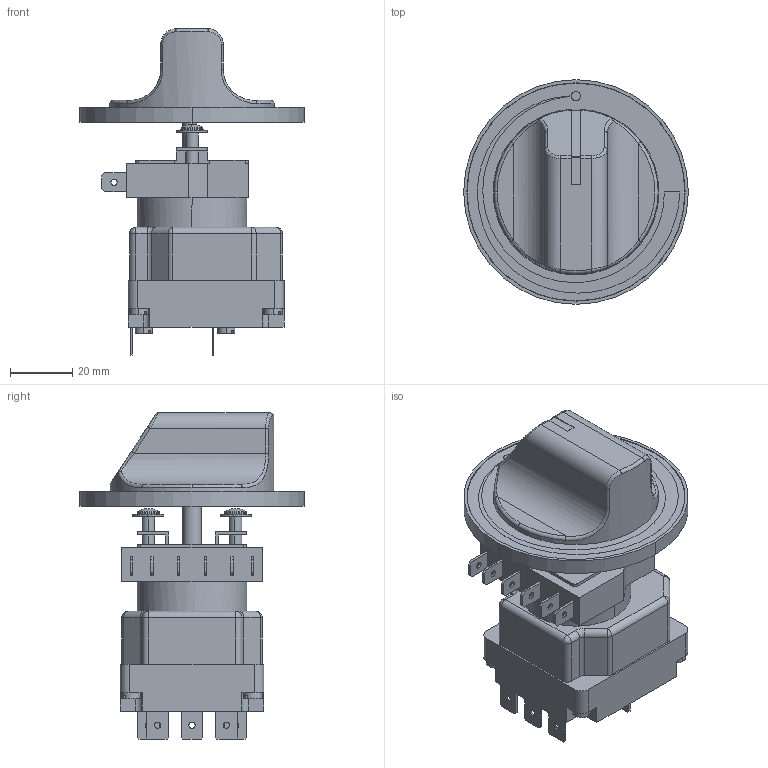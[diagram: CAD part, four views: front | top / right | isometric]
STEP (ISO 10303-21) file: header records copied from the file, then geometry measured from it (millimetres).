
FILE_DESCRIPTION (( 'STEP AP214' ), '1' );
FILE_NAME ('Bedienthermostat Infrarotkochfeld.STEP', '2019-02-14T08:44:30', ( '' ), ( '' ), 'SwSTEP 2.0', 'SolidWorks 2018', '' );
FILE_SCHEMA (( 'AUTOMOTIVE_DESIGN' ));
Length unit declared in the file: millimetre
Products named in the file (1): Bedienthermostat Infrarotkochfeld
Bounding box: 72 x 72 x 104.7 mm (x, y, z)
Volume: 141051.8 mm3; surface area: 30413 mm2
Topology: 1 solids, 3 shells, 432 faces, 1121 edges, 723 vertices
Faces by surface type: plane 243, cylinder 126, bspline 39, torus 16, sphere 4, cone 4
Entity records: 14770 total; most frequent: CARTESIAN_POINT 3690, ORIENTED_EDGE 2218, DIRECTION 2158, EDGE_CURVE 1109, AXIS2_PLACEMENT_3D 729, VERTEX_POINT 723, LINE 700, VECTOR 700
